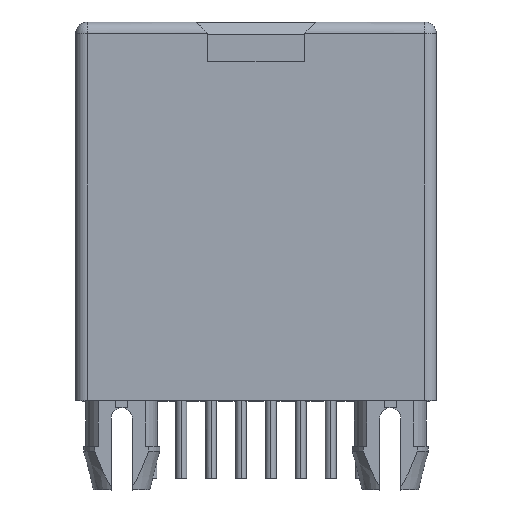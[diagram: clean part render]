
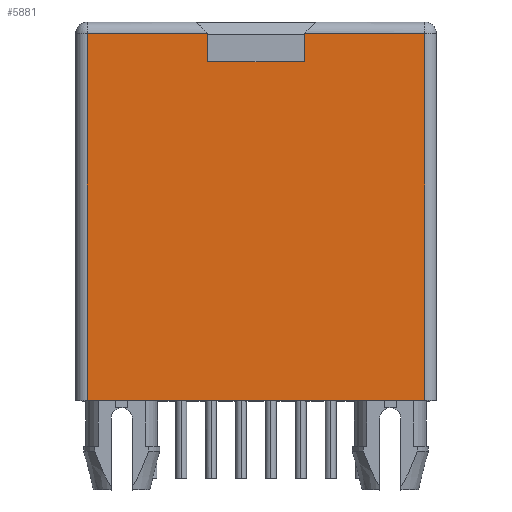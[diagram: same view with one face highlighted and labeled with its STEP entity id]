
A CAD part, top view. The second image highlights one B-rep face of the part: STEP entity #5881.
In plain terms, the highlighted planar face has unit normal (0, 0, 1).
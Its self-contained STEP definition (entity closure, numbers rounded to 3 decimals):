
#176=DIRECTION('',(1.,0.,0.));
#177=VECTOR('',#176,14.35);
#178=CARTESIAN_POINT('',(-7.175,0.,12.));
#179=LINE('',#178,#177);
#506=CARTESIAN_POINT('',(2.05,15.6,12.));
#1887=CARTESIAN_POINT('',(-2.05,15.6,12.));
#1898=DIRECTION('',(1.,0.,0.));
#1899=VECTOR('',#1898,5.125);
#1900=CARTESIAN_POINT('',(2.05,15.6,12.));
#1901=LINE('',#1900,#1899);
#1902=DIRECTION('',(0.,1.,0.));
#1903=VECTOR('',#1902,15.6);
#1904=CARTESIAN_POINT('',(-7.175,0.,12.));
#1905=LINE('',#1904,#1903);
#1906=DIRECTION('',(1.,0.,0.));
#1907=VECTOR('',#1906,5.125);
#1908=CARTESIAN_POINT('',(-7.175,15.6,12.));
#1909=LINE('',#1908,#1907);
#1910=DIRECTION('',(0.,-1.,0.));
#1911=VECTOR('',#1910,1.2);
#1912=CARTESIAN_POINT('',(-2.05,15.6,12.));
#1913=LINE('',#1912,#1911);
#1914=DIRECTION('',(1.,0.,0.));
#1915=VECTOR('',#1914,4.1);
#1916=CARTESIAN_POINT('',(-2.05,14.4,12.));
#1917=LINE('',#1916,#1915);
#1918=DIRECTION('',(0.,-1.,0.));
#1919=VECTOR('',#1918,1.2);
#1920=CARTESIAN_POINT('',(2.05,15.6,12.));
#1921=LINE('',#1920,#1919);
#1927=DIRECTION('',(0.,1.,0.));
#1928=VECTOR('',#1927,15.6);
#1929=CARTESIAN_POINT('',(7.175,0.,12.));
#1930=LINE('',#1929,#1928);
#2566=CARTESIAN_POINT('',(-7.175,0.,12.));
#2567=VERTEX_POINT('',#2566);
#2568=CARTESIAN_POINT('',(7.175,0.,12.));
#2569=VERTEX_POINT('',#2568);
#2624=CARTESIAN_POINT('',(-2.05,14.4,12.));
#2625=CARTESIAN_POINT('',(2.05,14.4,12.));
#2626=VERTEX_POINT('',#2624);
#2627=VERTEX_POINT('',#2625);
#2716=CARTESIAN_POINT('',(7.175,15.6,12.));
#2717=VERTEX_POINT('',#2716);
#2718=VERTEX_POINT('',#506);
#2743=VERTEX_POINT('',#1887);
#2744=CARTESIAN_POINT('',(-7.175,15.6,12.));
#2745=VERTEX_POINT('',#2744);
#5863=CARTESIAN_POINT('',(-7.175,0.,12.));
#5864=DIRECTION('',(0.,0.,1.));
#5865=DIRECTION('',(1.,0.,0.));
#5866=AXIS2_PLACEMENT_3D('',#5863,#5864,#5865);
#5867=PLANE('',#5866);
#5868=ORIENTED_EDGE('',*,*,#3857,.T.);
#5870=ORIENTED_EDGE('',*,*,#5869,.F.);
#5871=ORIENTED_EDGE('',*,*,#3371,.F.);
#5873=ORIENTED_EDGE('',*,*,#5872,.T.);
#5874=ORIENTED_EDGE('',*,*,#5855,.T.);
#5875=ORIENTED_EDGE('',*,*,#3781,.T.);
#5877=ORIENTED_EDGE('',*,*,#5876,.T.);
#5878=ORIENTED_EDGE('',*,*,#3816,.F.);
#5879=EDGE_LOOP('',(#5868,#5870,#5871,#5873,#5874,#5875,#5877,#5878));
#5880=FACE_OUTER_BOUND('',#5879,.F.);
#5881=ADVANCED_FACE('',(#5880),#5867,.T.);
#3371=EDGE_CURVE('',#2567,#2569,#179,.T.);
#3781=EDGE_CURVE('',#2743,#2626,#1913,.T.);
#3816=EDGE_CURVE('',#2718,#2627,#1921,.T.);
#3857=EDGE_CURVE('',#2718,#2717,#1901,.T.);
#5855=EDGE_CURVE('',#2745,#2743,#1909,.T.);
#5869=EDGE_CURVE('',#2569,#2717,#1930,.T.);
#5872=EDGE_CURVE('',#2567,#2745,#1905,.T.);
#5876=EDGE_CURVE('',#2626,#2627,#1917,.T.);
